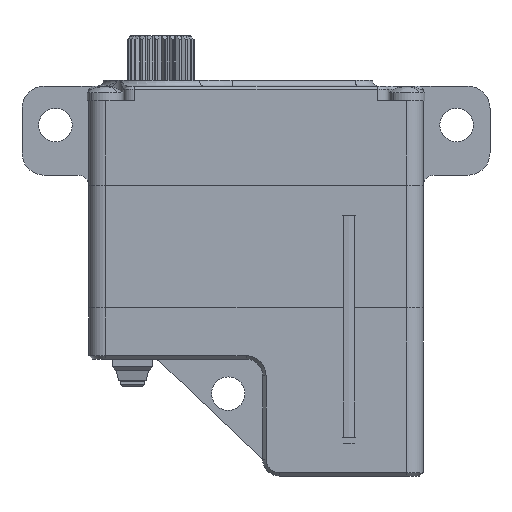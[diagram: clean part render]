
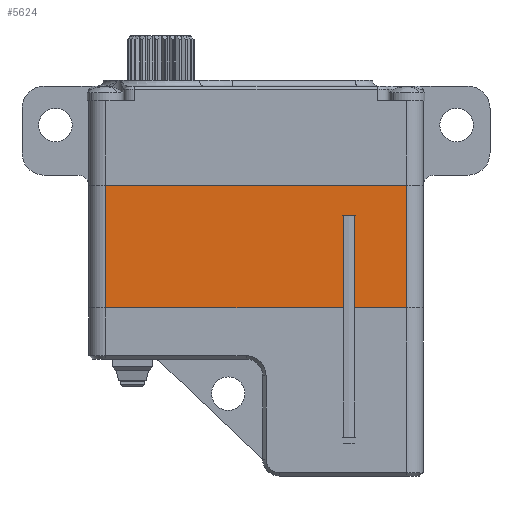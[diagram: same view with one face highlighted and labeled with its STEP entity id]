
A CAD part, front view. The second image highlights one B-rep face of the part: STEP entity #5624.
In plain terms, the highlighted planar face has unit normal (0, -1, 0).
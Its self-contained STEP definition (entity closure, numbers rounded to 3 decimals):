
#323 = DIRECTION ( 'NONE',  ( 0., 0., -1. ) ) ;
#746 = CARTESIAN_POINT ( 'NONE',  ( -51.267, -4.332, 3.925 ) ) ;
#755 = VERTEX_POINT ( 'NONE', #15844 ) ;
#1358 = DIRECTION ( 'NONE',  ( 0., 1., 0. ) ) ;
#1533 = VECTOR ( 'NONE', #323, 1000. ) ;
#1537 = CARTESIAN_POINT ( 'NONE',  ( -37.767, -4.332, 3.925 ) ) ;
#1808 = CARTESIAN_POINT ( 'NONE',  ( -37.767, -4.332, 3.925 ) ) ;
#2188 = ORIENTED_EDGE ( 'NONE', *, *, #16480, .T. ) ;
#2260 = EDGE_CURVE ( 'NONE', #16370, #16525, #6238, .T. ) ;
#2612 = EDGE_CURVE ( 'NONE', #755, #14268, #16605, .T. ) ;
#2628 = DIRECTION ( 'NONE',  ( -1., 0., 0. ) ) ;
#3911 = VERTEX_POINT ( 'NONE', #1537 ) ;
#4790 = ORIENTED_EDGE ( 'NONE', *, *, #2260, .F. ) ;
#5095 = EDGE_CURVE ( 'NONE', #16525, #15008, #7886, .T. ) ;
#5182 = VERTEX_POINT ( 'NONE', #18599 ) ;
#5556 = CARTESIAN_POINT ( 'NONE',  ( -64.767, -4.332, -7.075 ) ) ;
#5567 = CARTESIAN_POINT ( 'NONE',  ( -42.439, -4.332, 1.225 ) ) ;
#5624 = ADVANCED_FACE ( 'NONE', ( #10474 ), #13900, .F. ) ;
#5853 = LINE ( 'NONE', #5567, #17619 ) ;
#6152 = LINE ( 'NONE', #1808, #1533 ) ;
#6238 = LINE ( 'NONE', #11307, #18501 ) ;
#6481 = CARTESIAN_POINT ( 'NONE',  ( -64.767, -4.332, 3.925 ) ) ;
#7086 = DIRECTION ( 'NONE',  ( 1., 0., 0. ) ) ;
#7653 = DIRECTION ( 'NONE',  ( 0., 0., 1. ) ) ;
#7823 = EDGE_CURVE ( 'NONE', #3911, #755, #6152, .T. ) ;
#7886 = LINE ( 'NONE', #18335, #11030 ) ;
#8144 = LINE ( 'NONE', #746, #11061 ) ;
#9237 = LINE ( 'NONE', #6481, #12170 ) ;
#10474 = FACE_OUTER_BOUND ( 'NONE', #11844, .T. ) ;
#11020 = ORIENTED_EDGE ( 'NONE', *, *, #12180, .F. ) ;
#11030 = VECTOR ( 'NONE', #19980, 1000. ) ;
#11061 = VECTOR ( 'NONE', #7086, 1000. ) ;
#11307 = CARTESIAN_POINT ( 'NONE',  ( -43.437, -4.332, 1.225 ) ) ;
#11445 = VECTOR ( 'NONE', #2628, 1000. ) ;
#11677 = EDGE_CURVE ( 'NONE', #19869, #16370, #5853, .T. ) ;
#11844 = EDGE_LOOP ( 'NONE', ( #11020, #15914, #4790, #12771, #2188, #13462, #15045, #12303 ) ) ;
#11990 = CARTESIAN_POINT ( 'NONE',  ( -37.767, -4.332, -7.075 ) ) ;
#12170 = VECTOR ( 'NONE', #19283, 1000. ) ;
#12180 = EDGE_CURVE ( 'NONE', #15008, #5182, #9237, .T. ) ;
#12303 = ORIENTED_EDGE ( 'NONE', *, *, #17456, .F. ) ;
#12771 = ORIENTED_EDGE ( 'NONE', *, *, #11677, .F. ) ;
#12953 = CARTESIAN_POINT ( 'NONE',  ( -42.439, -4.332, 1.225 ) ) ;
#13462 = ORIENTED_EDGE ( 'NONE', *, *, #2612, .F. ) ;
#13900 = PLANE ( 'NONE',  #16129 ) ;
#14220 = CARTESIAN_POINT ( 'NONE',  ( -42.439, -4.332, 1.225 ) ) ;
#14242 = DIRECTION ( 'NONE',  ( 0., 0., -1. ) ) ;
#14268 = VERTEX_POINT ( 'NONE', #18598 ) ;
#15008 = VERTEX_POINT ( 'NONE', #5556 ) ;
#15045 = ORIENTED_EDGE ( 'NONE', *, *, #7823, .F. ) ;
#15405 = CARTESIAN_POINT ( 'NONE',  ( -51.267, -4.332, 3.925 ) ) ;
#15844 = CARTESIAN_POINT ( 'NONE',  ( -37.767, -4.332, -7.075 ) ) ;
#15914 = ORIENTED_EDGE ( 'NONE', *, *, #5095, .F. ) ;
#16129 = AXIS2_PLACEMENT_3D ( 'NONE', #15405, #1358, #7653 ) ;
#16370 = VERTEX_POINT ( 'NONE', #16658 ) ;
#16480 = EDGE_CURVE ( 'NONE', #19869, #14268, #18724, .T. ) ;
#16519 = DIRECTION ( 'NONE',  ( -1., 0., 0. ) ) ;
#16525 = VERTEX_POINT ( 'NONE', #18777 ) ;
#16605 = LINE ( 'NONE', #11990, #11445 ) ;
#16658 = CARTESIAN_POINT ( 'NONE',  ( -43.437, -4.332, 1.225 ) ) ;
#17202 = DIRECTION ( 'NONE',  ( 0., 0., -1. ) ) ;
#17456 = EDGE_CURVE ( 'NONE', #5182, #3911, #8144, .T. ) ;
#17619 = VECTOR ( 'NONE', #16519, 1000. ) ;
#18335 = CARTESIAN_POINT ( 'NONE',  ( -43.437, -4.332, -7.075 ) ) ;
#18501 = VECTOR ( 'NONE', #14242, 1000. ) ;
#18598 = CARTESIAN_POINT ( 'NONE',  ( -42.439, -4.332, -7.075 ) ) ;
#18599 = CARTESIAN_POINT ( 'NONE',  ( -64.767, -4.332, 3.925 ) ) ;
#18724 = LINE ( 'NONE', #14220, #19210 ) ;
#18777 = CARTESIAN_POINT ( 'NONE',  ( -43.437, -4.332, -7.075 ) ) ;
#19210 = VECTOR ( 'NONE', #17202, 1000. ) ;
#19283 = DIRECTION ( 'NONE',  ( 0., 0., 1. ) ) ;
#19869 = VERTEX_POINT ( 'NONE', #12953 ) ;
#19980 = DIRECTION ( 'NONE',  ( -1., 0., 0. ) ) ;
